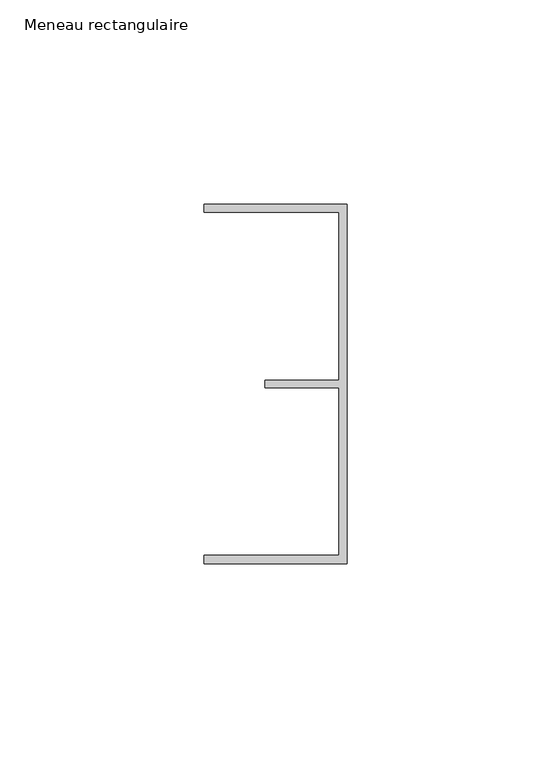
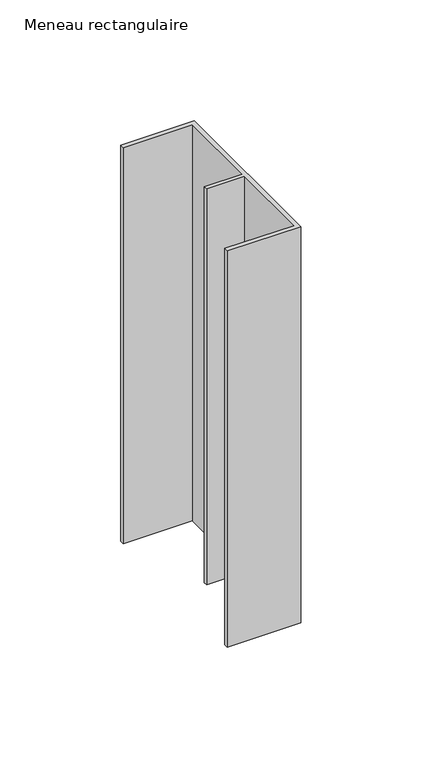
"""IFC4 building model written with IfcOpenShell, lengths in millimetres: member geometry, Meneau rectangulaire : LISSERIE_PLAFOND_COIFFANTE 94-KLP00-P80-SD20ALU."""

import ifcopenshell
import ifcopenshell.guid

model = None  # the IFC model being written
_history = None  # IfcOwnerHistory: only IFC2X3 demands one
_inside = {}  # id of a spatial element -> (the spatial element, [elements in it])
_under = {}  # id of a project, library or spatial element -> (it, [spatial elements below it])
_declared = {}  # id of a project -> (the project, [libraries it declares])
_typed = {}  # id of a type object -> (the type object, [elements of that type])
_made_of = {}  # id of a material, layer set ... -> (it, [elements and type objects made of it])


def new_model(schema):
    """Start an empty IFC model of exactly this schema.

    Asked for "IFC4X3", IfcOpenShell would pick the latest addendum, in which some entities
    have other attributes; the version numbers below select the first issue.
    IFC2X3 requires an IfcOwnerHistory on every rooted entity: one is made here for all.
    """
    global model, _history
    if schema == "IFC4X3":
        model = ifcopenshell.file(schema_version=(4, 3, 0, 0))
    else:
        model = ifcopenshell.file(schema=schema)
    _inside.clear()
    _under.clear()
    _declared.clear()
    _typed.clear()
    _made_of.clear()
    _history = None
    if model.schema == "IFC2X3":
        org = make("IfcOrganization", Name="unknown")
        user = make(
            "IfcPersonAndOrganization",
            ThePerson=make("IfcPerson", FamilyName="unknown"),
            TheOrganization=org,
        )
        app = make(
            "IfcApplication",
            ApplicationDeveloper=org,
            Version="unknown",
            ApplicationFullName="unknown",
            ApplicationIdentifier="unknown",
        )
        _history = make(
            "IfcOwnerHistory",
            OwningUser=user,
            OwningApplication=app,
            ChangeAction="ADDED",
            CreationDate=0,
        )
    return model


def make(cls, **values):
    """One entity of the class cls with the attributes given. An attribute that is None is left unset."""
    return model.create_entity(
        cls, **{name: value for name, value in values.items() if value is not None}
    )


def rooted(cls, **values):
    """An entity with a GlobalId (a new one), such as an element, a storey or a relation."""
    return make(cls, GlobalId=ifcopenshell.guid.new(), OwnerHistory=_history, **values)


def si_unit(unit_type, name, prefix=None):
    """IfcSIUnit, for example si_unit("LENGTHUNIT", "METRE", prefix="MILLI")."""
    return make("IfcSIUnit", UnitType=unit_type, Prefix=prefix, Name=name)


def assignment(units):
    """IfcUnitAssignment: the units of a project."""
    return None if units is None else make("IfcUnitAssignment", Units=units)


def point(xyz):
    """IfcCartesianPoint."""
    return None if xyz is None else make("IfcCartesianPoint", Coordinates=xyz)


def direction(xyz):
    """IfcDirection."""
    return None if xyz is None else make("IfcDirection", DirectionRatios=xyz)


def frame(location, z_axis=None, x_axis=None):
    """IfcAxis2Placement3D, a coordinate frame: its origin and axes. An axis left out is left unset."""
    return make(
        "IfcAxis2Placement3D",
        Location=point(location),
        Axis=direction(z_axis),
        RefDirection=direction(x_axis),
    )


def origin():
    """The frame at (0, 0, 0) with its axes left unset."""
    return frame((0.0, 0.0, 0.0))


def place(relative_to, where):
    """IfcLocalPlacement: puts the frame where relative to a parent placement (None: the world)."""
    return make(
        "IfcLocalPlacement", PlacementRelTo=relative_to, RelativePlacement=where
    )


def context(
    kind, dimensions, precision=None, world=None, true_north=None, identifier=None
):
    """IfcGeometricRepresentationContext, for example the 3D "Model" context."""
    return make(
        "IfcGeometricRepresentationContext",
        ContextIdentifier=identifier,
        ContextType=kind,
        CoordinateSpaceDimension=dimensions,
        Precision=precision,
        WorldCoordinateSystem=world,
        TrueNorth=true_north,
    )


def project(units=None, contexts=None):
    """IfcProject with its units and contexts."""
    return rooted(
        "IfcProject",
        Name="project",
        RepresentationContexts=contexts,
        UnitsInContext=assignment(units),
    )


def spatial(cls, under=None, at=None, **own):
    """A site, building, storey or space (cls), placed at a placement, below another one or the project."""
    s = rooted(cls, ObjectPlacement=at, **own)
    if under is not None:
        _under.setdefault(under.id(), (under, []))[1].append(s)
    return s


def polyline(points):
    """IfcPolyline through the points."""
    return make("IfcPolyline", Points=[point(p) for p in points])


def outline(outer, holes=None, kind="AREA"):
    """IfcArbitraryClosedProfileDef: a profile drawn as a closed curve; with holes, ...WithVoids."""
    if holes is None:
        return make("IfcArbitraryClosedProfileDef", ProfileType=kind, OuterCurve=outer)
    return make(
        "IfcArbitraryProfileDefWithVoids",
        ProfileType=kind,
        OuterCurve=outer,
        InnerCurves=holes,
    )


def extrude(swept, where, along, depth):
    """IfcExtrudedAreaSolid: the profile swept, set in the frame where, extruded along a direction by depth."""
    return make(
        "IfcExtrudedAreaSolid",
        SweptArea=swept,
        Position=where,
        ExtrudedDirection=direction(along),
        Depth=depth,
    )


def shape(context_of_items, identifier, shape_type, items):
    """IfcShapeRepresentation: the items that make up one representation, for example the "Body"."""
    return make(
        "IfcShapeRepresentation",
        ContextOfItems=context_of_items,
        RepresentationIdentifier=identifier,
        RepresentationType=shape_type,
        Items=items,
    )


def source(mapping_origin, context_of_items, identifier, shape_type, items):
    """IfcRepresentationMap: a shape defined once, which mapped items show again and again."""
    return make(
        "IfcRepresentationMap",
        MappingOrigin=mapping_origin,
        MappedRepresentation=shape(context_of_items, identifier, shape_type, items),
    )


def transform(
    local_origin,
    x_axis=None,
    y_axis=None,
    z_axis=None,
    scale=None,
    scale2=None,
    scale3=None,
    uniform=True,
):
    """IfcCartesianTransformationOperator3D, or its non-uniform kind. x_axis, y_axis, z_axis: its Axis1, 2, 3."""
    if uniform:
        return make(
            "IfcCartesianTransformationOperator3D",
            Axis1=direction(x_axis),
            Axis2=direction(y_axis),
            LocalOrigin=point(local_origin),
            Scale=scale,
            Axis3=direction(z_axis),
        )
    return make(
        "IfcCartesianTransformationOperator3DnonUniform",
        Axis1=direction(x_axis),
        Axis2=direction(y_axis),
        LocalOrigin=point(local_origin),
        Scale=scale,
        Axis3=direction(z_axis),
        Scale2=scale2,
        Scale3=scale3,
    )


def mapped(mapping_source, mapping_target):
    """IfcMappedItem: shows the shape of a source again, moved by a transform."""
    return make(
        "IfcMappedItem", MappingSource=mapping_source, MappingTarget=mapping_target
    )


def made_of(thing, what):
    """Note that an element or type object is made of a material, layer set ...; save() writes the relation."""
    if what is not None:
        _made_of.setdefault(what.id(), (what, []))[1].append(thing)
    return thing


def element(
    cls,
    number,
    at=None,
    inside=None,
    cuts=None,
    type_object=None,
    material=None,
    context=None,
    identifier="Body",
    shape_type=None,
    held_by="IfcProductDefinitionShape",
    body=None,
    shapes=None,
    **own,
):
    """One element of the class cls, such as IfcWall. Its Tag is "e" and its number.

    at: its placement. inside: the storey or other place that contains it. cuts: it is an
    opening in that element (IfcRelVoidsElement). A single representation is given by context,
    identifier, shape_type and body (its items); several are given by shapes. held_by: the class
    of the entity that holds the representations. save() writes the other relations.
    """
    e = rooted(cls, Tag="e%d" % number, ObjectPlacement=at, **own)
    if body is not None:
        shapes = [shape(context, identifier, shape_type, body)]
    if shapes is not None:
        e.Representation = make(held_by, Representations=shapes)
    if inside is not None:
        _inside.setdefault(inside.id(), (inside, []))[1].append(e)
    if cuts is not None:
        rooted(
            "IfcRelVoidsElement", RelatingBuildingElement=cuts, RelatedOpeningElement=e
        )
    if type_object is not None:
        _typed.setdefault(type_object.id(), (type_object, []))[1].append(e)
    return made_of(e, material)


def aggregate(whole, parts):
    """IfcRelAggregates: a whole, such as a stair, and the parts it consists of."""
    return rooted("IfcRelAggregates", RelatingObject=whole, RelatedObjects=parts)


def save(model, path):
    """Write the relations noted so far, then the file.

    IfcRelAggregates (storeys below a building ...), IfcRelContainedInSpatialStructure (elements
    in a storey), IfcRelDefinesByType, IfcRelAssociatesMaterial and IfcRelDeclares: one each for
    every whole, place, type object, material and project.
    """
    for whole, parts in _under.values():
        aggregate(whole, parts)
    for where, things in _inside.values():
        rooted(
            "IfcRelContainedInSpatialStructure",
            RelatedElements=things,
            RelatingStructure=where,
        )
    for kind, things in _typed.values():
        rooted("IfcRelDefinesByType", RelatedObjects=things, RelatingType=kind)
    for what, things in _made_of.values():
        rooted("IfcRelAssociatesMaterial", RelatedObjects=things, RelatingMaterial=what)
    for by, libraries in _declared.values():
        rooted("IfcRelDeclares", RelatingContext=by, RelatedDefinitions=libraries)
    model.write(path)


def meneau_rectangulaire_65ac8e74(model_context):
    return source(origin(), model_context, "Body", "SweptSolid", [
        extrude(outline(polyline([(0.0, 44.0), (0.0, -44.0), (-35.0, -44.0), (-35.0, -42.0), (-2.0, -42.0), (-2.0, -0.9316478), (-20.0, -0.9316478), (-20.0, 0.9316478), (-2.0, 0.9316478), (-2.0, 42.0), (-35.0, 42.0), (-35.0, 44.0), (0.0, 44.0)])), frame((0.0, 0.0, -200.0), z_axis=(0.0, 0.0, 1.0), x_axis=(1.0, 0.0, 0.0)), (0.0, 0.0, 1.0), 200.0),
    ])


if __name__ == "__main__":
    model = new_model("IFC4")
    model_context = context("Model", 3, world=origin())
    ifc_project = project(units=[si_unit("LENGTHUNIT", "METRE", prefix="MILLI")], contexts=[model_context])
    site = spatial("IfcSite", under=ifc_project)
    building = spatial("IfcBuilding", under=site)
    placement = place(None, origin())
    meneau_rectangulaire_shape = meneau_rectangulaire_65ac8e74(model_context)
    element("IfcMember", 1, ObjectType="Meneau rectangulaire : LISSERIE_PLAFOND_COIFFANTE 94-KLP00-P80-SD20ALU", at=placement, inside=building, context=model_context, shape_type="MappedRepresentation", body=[
        mapped(meneau_rectangulaire_shape, transform((0.0, 0.0, 0.0), x_axis=(1.0, 0.0, 0.0), y_axis=(0.0, 1.0, 0.0), z_axis=(0.0, 0.0, 1.0))),
    ])
    save(model, "model.ifc")
